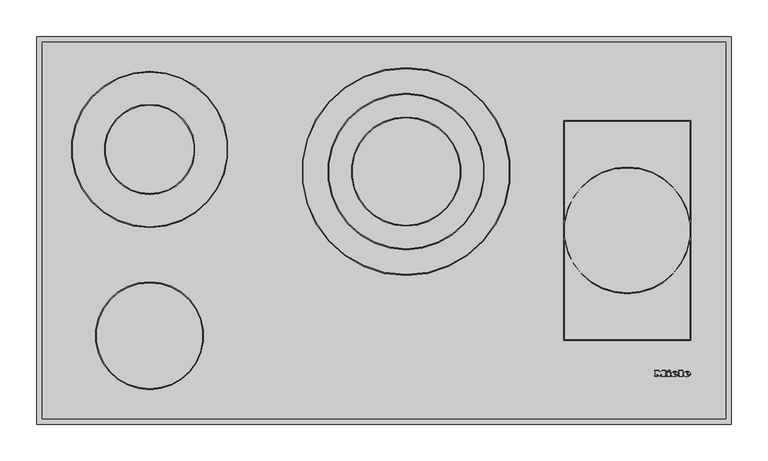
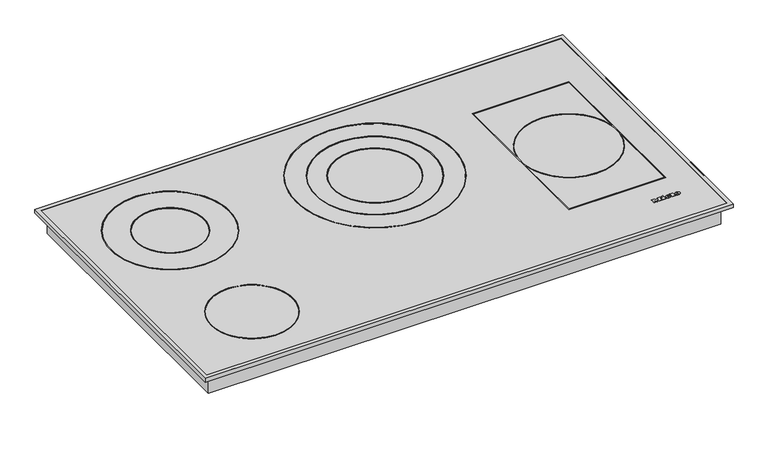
"""IFC4 building model written with IfcOpenShell, lengths in millimetres: proxy geometry, 12291800_UA_KM6565FR : 26656500_UA_12291800_KM6565FR."""

from ifc_helpers import new_model, si_unit, point, frame, frame_2d, origin, place, context, project, spatial, polyline, circle_curve, ellipse_curve, trimmed, segment, composite_curve, outline, extrude, faceted_brep, source, transform, mapped, element, save
from ifc_brep_helpers import plane_surface, cylinder_surface, revolved_surface, extruded_surface, advanced_brep


def specialty_equipment_58cac93b(model_context):
    return source(origin(), model_context, "Body", "SolidModel", [
        advanced_brep(
        [(410.56, 66.8948833, 6.4802537), (410.56, 67.7028828, 6.4811551), (415.912, 67.7028828, 6.4811551), (406.6, 67.7028828, 6.4811551), (408.8, 64.9988845, 6.4781386), (415.776, 66.8948833, 6.4802537), (413.36, 66.8948833, 6.4802537), (411.456, 65.9988838, 6.4792542), (410.56, 68.7268821, 6.4822974), (410.56, 69.5988816, 6.4832701), (411.928, 69.5988816, 6.4832701), (411.928, 68.7268821, 6.4822974), (410.56, 66.8959988, 5.4802543), (411.456, 65.9999994, 5.4792548), (413.36, 66.8959988, 5.4802543), (415.776, 66.8959988, 5.4802543), (408.8, 65.0, 5.4781393), (406.6, 67.7039983, 5.4811557), (415.912, 67.7039983, 5.4811557), (410.56, 67.7039983, 5.4811557), (410.56, 68.7279977, 5.482298), (411.928, 68.7279977, 5.482298), (411.928, 69.5999971, 5.4832707), (410.56, 69.5999971, 5.4832707)],
        [
            (0, 1),
            (1, 2),
            (2, 3, ellipse_curve(frame((411.256, 67.7028828, 6.4811551), z_axis=(0.0, -0.0011155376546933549, 0.9999993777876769), x_axis=(-1.0, 0.0, 0.0)), 4.656, 3.848)),
            (3, 4, circle_curve(frame((409.6960436, 67.9748826, 6.4814585), z_axis=(0.0, -0.0011155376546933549, 0.9999993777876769), x_axis=(0.0, -0.9999993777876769, -0.0011155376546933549)), 3.1079688)),
            (4, 5, circle_curve(frame((411.1627936, 70.0868813, 6.4838145), z_axis=(0.0, -0.0011155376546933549, 0.9999993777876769), x_axis=(0.0, -0.9999993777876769, -0.0011155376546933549)), 5.6098607)),
            (5, 6),
            (6, 7, circle_curve(frame((411.8470588, 67.6388828, 6.4810837), z_axis=(0.0, 0.0011155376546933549, -0.9999993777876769), x_axis=(0.0, -0.9999993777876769, -0.0011155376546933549)), 1.6859795)),
            (7, 0, circle_curve(frame((411.456, 66.8948833, 6.4802537), z_axis=(0.0, 0.0011155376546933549, -0.9999993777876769), x_axis=(0.0, -0.9999993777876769, -0.0011155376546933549)), 0.896)),
            (8, 9),
            (9, 10, circle_curve(frame((411.244, 69.5988816, 6.4832701), z_axis=(0.0, 0.0011155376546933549, -0.9999993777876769), x_axis=(0.0, -0.9999993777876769, -0.0011155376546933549)), 0.684)),
            (10, 11),
            (11, 8),
            (12, 13, circle_curve(frame((411.456, 66.8959988, 5.4802543), z_axis=(0.0, -0.0011155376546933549, 0.9999993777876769), x_axis=(0.0, -0.9999993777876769, -0.0011155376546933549)), 0.896)),
            (13, 14, circle_curve(frame((411.8470588, 67.6399984, 5.4810843), z_axis=(0.0, -0.0011155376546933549, 0.9999993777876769), x_axis=(0.0, -0.9999993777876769, -0.0011155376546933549)), 1.6859795)),
            (14, 15),
            (15, 16, circle_curve(frame((411.1627936, 70.0879968, 5.4838151), z_axis=(0.0, 0.0011155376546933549, -0.9999993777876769), x_axis=(0.0, -0.9999993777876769, -0.0011155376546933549)), 5.6098607)),
            (16, 17, circle_curve(frame((409.6960436, 67.9759981, 5.4814591), z_axis=(0.0, 0.0011155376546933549, -0.9999993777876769), x_axis=(0.0, -0.9999993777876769, -0.0011155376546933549)), 3.1079688)),
            (17, 18, ellipse_curve(frame((411.256, 67.7039983, 5.4811557), z_axis=(0.0, 0.0011155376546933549, -0.9999993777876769), x_axis=(-1.0, 0.0, 0.0)), 4.656, 3.848)),
            (18, 19),
            (19, 12),
            (20, 21),
            (21, 22),
            (22, 23, circle_curve(frame((411.244, 69.5999971, 5.4832707), z_axis=(0.0, -0.0011155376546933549, 0.9999993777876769), x_axis=(0.0, -0.9999993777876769, -0.0011155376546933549)), 0.684)),
            (23, 20),
            (0, 12),
            (19, 1),
            (18, 2),
            (5, 15),
            (14, 6),
            (17, 3),
            (13, 7),
            (16, 4),
            (8, 20),
            (23, 9),
            (22, 10),
            (21, 11),
        ],
        [
            plane_surface(frame((410.56, 67.7028828, 6.4811551), z_axis=(0.0, -0.0011155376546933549, 0.9999993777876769), x_axis=(0.0, 0.9999993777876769, 0.0011155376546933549))),
            plane_surface(frame((410.56, 67.7039983, 5.4811557), z_axis=(0.0, 0.0011155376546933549, -0.9999993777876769), x_axis=(0.0, -0.9999993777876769, -0.0011155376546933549))),
            plane_surface(frame((410.56, 66.8948833, 6.4802537), z_axis=(1.0000000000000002, 0.0, 0.0), x_axis=(0.0, 0.001115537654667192, -0.999999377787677))),
            plane_surface(frame((410.56, 67.7028828, 6.4811551), z_axis=(0.0, -0.999999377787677, -0.001115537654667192), x_axis=(0.0, 0.001115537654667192, -0.999999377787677))),
            plane_surface(frame((415.776, 66.8948833, 6.4802537), z_axis=(0.0, 0.999999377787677, 0.001115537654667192), x_axis=(0.0, 0.001115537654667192, -0.999999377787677))),
            extruded_surface(trimmed(ellipse_curve(frame((411.256, 67.7051139, 4.4811563), z_axis=(0.0, -0.0011155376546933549, 0.9999993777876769), x_axis=(-1.0, 0.0, 0.0)), 4.656, 3.848), [point((415.912, 67.7051139, 4.4811563))], [point((406.6, 67.7051139, 4.4811563))], True, "CARTESIAN"), (0.0, -0.0011156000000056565, 0.9999994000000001), 1.00000002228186),
            revolved_surface(polyline([(411.8470588, 65.95401994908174, 5.479203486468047), (411.8470588, 65.95290441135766, 6.4792029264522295)]), (411.8470588, 67.6399984, 5.4810843), (0.0, 0.0011155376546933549, -0.9999993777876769)),
            revolved_surface(polyline([(411.456, 65.99999935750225, 5.479254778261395), (411.456, 65.9988838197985, 6.479254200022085)]), (411.456, 66.8959988, 5.4802543), (0.0, 0.0011155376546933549, -0.9999993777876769)),
            cylinder_surface(frame((409.6960436, 67.9759981, 5.4814591), z_axis=(0.0, -0.0011155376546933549, 0.9999993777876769), x_axis=(0.0, -0.9999993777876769, -0.0011155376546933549)), 3.1079688),
            cylinder_surface(frame((411.1627936, 70.0879968, 5.4838151), z_axis=(0.0, -0.0011155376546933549, 0.9999993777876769), x_axis=(0.0, -0.9999993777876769, -0.0011155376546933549)), 5.6098607),
            plane_surface(frame((410.56, 68.7268821, 6.4822974), z_axis=(1.0000000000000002, 0.0, 0.0), x_axis=(0.0, 0.001115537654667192, -0.999999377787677))),
            revolved_surface(polyline([(411.244, 68.91599752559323, 5.48250767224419), (411.244, 68.9148819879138, 6.482507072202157)]), (411.244, 69.5999971, 5.4832707), (0.0, 0.0011155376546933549, -0.9999993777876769)),
            plane_surface(frame((411.928, 69.5988816, 6.4832701), z_axis=(-1.0000000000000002, 0.0, 0.0), x_axis=(0.0, 0.001115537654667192, -0.999999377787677))),
            plane_surface(frame((411.928, 68.7268821, 6.4822974), z_axis=(0.0, 0.999999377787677, 0.001115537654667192), x_axis=(0.0, 0.001115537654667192, -0.999999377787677))),
        ],
        [
            (0, [[1, 2, 3, 4, 5, 6, 7, 8], [9, 10, 11, 12]]),
            (1, [[13, 14, 15, 16, 17, 18, 19, 20], [21, 22, 23, 24]]),
            (2, [[-1, 25, -20, 26]]),
            (3, [[-2, -26, -19, 27]]),
            (4, [[-6, 28, -15, 29]]),
            (5, [[-3, -27, -18, 30]]),
            (6, [[-7, -29, -14, 31]]),
            (7, [[-8, -31, -13, -25]]),
            (8, [[-4, -30, -17, 32]]),
            (9, [[-5, -32, -16, -28]]),
            (10, [[-9, 33, -24, 34]]),
            (11, [[-10, -34, -23, 35]]),
            (12, [[-11, -35, -22, 36]]),
            (13, [[-12, -36, -21, -33]]),
        ],
    ),
        advanced_brep(
        [(393.864, 66.8948833, 6.4802537), (393.864, 67.7028828, 6.4811551), (399.216, 67.7028828, 6.4811551), (389.904, 67.7028828, 6.4811551), (392.104, 64.9988845, 6.4781386), (399.08, 66.8948833, 6.4802537), (396.664, 66.8948833, 6.4802537), (394.76, 65.9988838, 6.4792542), (393.864, 68.7268821, 6.4822974), (393.864, 69.5988816, 6.4832701), (395.232, 69.5988816, 6.4832701), (395.232, 68.7268821, 6.4822974), (393.864, 66.8959988, 5.4802543), (394.76, 65.9999994, 5.4792548), (396.664, 66.8959988, 5.4802543), (399.08, 66.8959988, 5.4802543), (392.104, 65.0, 5.4781393), (389.904, 67.7039983, 5.4811557), (399.216, 67.7039983, 5.4811557), (393.864, 67.7039983, 5.4811557), (393.864, 68.7279977, 5.482298), (395.232, 68.7279977, 5.482298), (395.232, 69.5999971, 5.4832707), (393.864, 69.5999971, 5.4832707)],
        [
            (0, 1),
            (1, 2),
            (2, 3, ellipse_curve(frame((394.56, 67.7028828, 6.4811551), z_axis=(0.0, -0.0011155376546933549, 0.9999993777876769), x_axis=(-1.0, 0.0, 0.0)), 4.656, 3.848)),
            (3, 4, circle_curve(frame((393.0000436, 67.9748826, 6.4814585), z_axis=(0.0, -0.0011155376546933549, 0.9999993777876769), x_axis=(0.0, -0.9999993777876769, -0.0011155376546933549)), 3.1079688)),
            (4, 5, circle_curve(frame((394.4667936, 70.0868813, 6.4838145), z_axis=(0.0, -0.0011155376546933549, 0.9999993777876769), x_axis=(0.0, -0.9999993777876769, -0.0011155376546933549)), 5.6098607)),
            (5, 6),
            (6, 7, circle_curve(frame((395.1510588, 67.6388828, 6.4810837), z_axis=(0.0, 0.0011155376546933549, -0.9999993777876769), x_axis=(0.0, -0.9999993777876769, -0.0011155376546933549)), 1.6859795)),
            (7, 0, circle_curve(frame((394.76, 66.8948833, 6.4802537), z_axis=(0.0, 0.0011155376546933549, -0.9999993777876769), x_axis=(0.0, -0.9999993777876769, -0.0011155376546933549)), 0.896)),
            (8, 9),
            (9, 10, circle_curve(frame((394.548, 69.5988816, 6.4832701), z_axis=(0.0, 0.0011155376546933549, -0.9999993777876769), x_axis=(0.0, -0.9999993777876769, -0.0011155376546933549)), 0.684)),
            (10, 11),
            (11, 8),
            (12, 13, circle_curve(frame((394.76, 66.8959988, 5.4802543), z_axis=(0.0, -0.0011155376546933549, 0.9999993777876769), x_axis=(0.0, -0.9999993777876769, -0.0011155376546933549)), 0.896)),
            (13, 14, circle_curve(frame((395.1510588, 67.6399984, 5.4810843), z_axis=(0.0, -0.0011155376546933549, 0.9999993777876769), x_axis=(0.0, -0.9999993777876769, -0.0011155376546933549)), 1.6859795)),
            (14, 15),
            (15, 16, circle_curve(frame((394.4667936, 70.0879968, 5.4838151), z_axis=(0.0, 0.0011155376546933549, -0.9999993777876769), x_axis=(0.0, -0.9999993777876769, -0.0011155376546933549)), 5.6098607)),
            (16, 17, circle_curve(frame((393.0000436, 67.9759981, 5.4814591), z_axis=(0.0, 0.0011155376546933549, -0.9999993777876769), x_axis=(0.0, -0.9999993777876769, -0.0011155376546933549)), 3.1079688)),
            (17, 18, ellipse_curve(frame((394.56, 67.7039983, 5.4811557), z_axis=(0.0, 0.0011155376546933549, -0.9999993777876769), x_axis=(-1.0, 0.0, 0.0)), 4.656, 3.848)),
            (18, 19),
            (19, 12),
            (20, 21),
            (21, 22),
            (22, 23, circle_curve(frame((394.548, 69.5999971, 5.4832707), z_axis=(0.0, -0.0011155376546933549, 0.9999993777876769), x_axis=(0.0, -0.9999993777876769, -0.0011155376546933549)), 0.684)),
            (23, 20),
            (0, 12),
            (19, 1),
            (18, 2),
            (5, 15),
            (14, 6),
            (17, 3),
            (13, 7),
            (16, 4),
            (8, 20),
            (23, 9),
            (22, 10),
            (21, 11),
        ],
        [
            plane_surface(frame((393.864, 67.7028828, 6.4811551), z_axis=(0.0, -0.0011155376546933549, 0.9999993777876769), x_axis=(0.0, 0.9999993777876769, 0.0011155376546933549))),
            plane_surface(frame((393.864, 67.7039983, 5.4811557), z_axis=(0.0, 0.0011155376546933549, -0.9999993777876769), x_axis=(0.0, -0.9999993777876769, -0.0011155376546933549))),
            plane_surface(frame((393.864, 66.8948833, 6.4802537), z_axis=(1.0000000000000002, 0.0, 0.0), x_axis=(0.0, 0.001115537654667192, -0.999999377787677))),
            plane_surface(frame((393.864, 67.7028828, 6.4811551), z_axis=(0.0, -0.999999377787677, -0.001115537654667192), x_axis=(0.0, 0.001115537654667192, -0.999999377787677))),
            plane_surface(frame((399.08, 66.8948833, 6.4802537), z_axis=(0.0, 0.999999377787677, 0.001115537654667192), x_axis=(0.0, 0.001115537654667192, -0.999999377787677))),
            extruded_surface(trimmed(ellipse_curve(frame((394.56, 67.7051139, 4.4811563), z_axis=(0.0, -0.0011155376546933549, 0.9999993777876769), x_axis=(-1.0, 0.0, 0.0)), 4.656, 3.848), [point((399.216, 67.7051139, 4.4811563))], [point((389.904, 67.7051139, 4.4811563))], True, "CARTESIAN"), (0.0, -0.0011156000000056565, 0.9999994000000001), 1.00000002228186),
            revolved_surface(polyline([(395.1510588, 65.95401994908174, 5.479203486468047), (395.1510588, 65.95290441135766, 6.4792029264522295)]), (395.1510588, 67.6399984, 5.4810843), (0.0, 0.0011155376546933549, -0.9999993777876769)),
            revolved_surface(polyline([(394.76, 65.99999935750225, 5.479254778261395), (394.76, 65.9988838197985, 6.479254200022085)]), (394.76, 66.8959988, 5.4802543), (0.0, 0.0011155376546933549, -0.9999993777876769)),
            cylinder_surface(frame((393.0000436, 67.9759981, 5.4814591), z_axis=(0.0, -0.0011155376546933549, 0.9999993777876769), x_axis=(0.0, -0.9999993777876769, -0.0011155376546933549)), 3.1079688),
            cylinder_surface(frame((394.4667936, 70.0879968, 5.4838151), z_axis=(0.0, -0.0011155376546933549, 0.9999993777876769), x_axis=(0.0, -0.9999993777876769, -0.0011155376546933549)), 5.6098607),
            plane_surface(frame((393.864, 68.7268821, 6.4822974), z_axis=(1.0000000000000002, 0.0, 0.0), x_axis=(0.0, 0.001115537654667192, -0.999999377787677))),
            revolved_surface(polyline([(394.548, 68.91599752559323, 5.48250767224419), (394.548, 68.9148819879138, 6.482507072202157)]), (394.548, 69.5999971, 5.4832707), (0.0, 0.0011155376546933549, -0.9999993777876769)),
            plane_surface(frame((395.232, 69.5988816, 6.4832701), z_axis=(-1.0000000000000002, 0.0, 0.0), x_axis=(0.0, 0.001115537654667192, -0.999999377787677))),
            plane_surface(frame((395.232, 68.7268821, 6.4822974), z_axis=(0.0, 0.999999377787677, 0.001115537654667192), x_axis=(0.0, 0.001115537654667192, -0.999999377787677))),
        ],
        [
            (0, [[1, 2, 3, 4, 5, 6, 7, 8], [9, 10, 11, 12]]),
            (1, [[13, 14, 15, 16, 17, 18, 19, 20], [21, 22, 23, 24]]),
            (2, [[-1, 25, -20, 26]]),
            (3, [[-2, -26, -19, 27]]),
            (4, [[-6, 28, -15, 29]]),
            (5, [[-3, -27, -18, 30]]),
            (6, [[-7, -29, -14, 31]]),
            (7, [[-8, -31, -13, -25]]),
            (8, [[-4, -30, -17, 32]]),
            (9, [[-5, -32, -16, -28]]),
            (10, [[-9, 33, -24, 34]]),
            (11, [[-10, -34, -23, 35]]),
            (12, [[-11, -35, -22, 36]]),
            (13, [[-12, -36, -21, -33]]),
        ],
    ),
        extrude(outline(polyline([(0.0, 0.0), (-0.0109086, -2.9993294), (-1.4390415, -2.9920868), (-1.4315307, 0.0), (0.0, 0.0)])), frame((385.12, 72.5279953, 5.486537), z_axis=(0.0, -0.0011155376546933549, 0.9999993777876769), x_axis=(-0.42472021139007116, 0.9053240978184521, 0.0010099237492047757)), (0.0, 0.0, 1.0), 1.0),
        extrude(outline(polyline([(-0.4933908, 2.4141097), (-2.7800844, -2.4601583), (-7.0459741, -0.4588767), (-7.4401145, -1.299018), (-8.6568709, -0.728194), (-5.9760369, 4.9862153), (-4.7592805, 4.4153913), (-5.1636142, 3.5535222), (-2.1941493, 2.1604399), (-1.7898157, 3.022309), (-0.4933908, 2.4141097)])), frame((385.12, 72.5279953, 5.486537), z_axis=(0.0, -0.0011155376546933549, 0.9999993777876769), x_axis=(-0.42472021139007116, 0.9053240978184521, 0.0010099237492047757)), (0.0, 0.0, 1.0), 1.0),
        extrude(outline(polyline([(0.0, 0.0), (0.0, -1.304), (-5.504, -1.304), (-5.504, 5.3519999), (-6.488, 5.3519999), (-6.488, 6.696), (0.0, 6.696), (0.0, 5.3519999), (-0.96, 5.3519999), (-0.96, 0.0), (0.0, 0.0)])), frame((399.664, 71.6959958, 5.4856089), z_axis=(0.0, -0.0011155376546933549, 0.9999993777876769), x_axis=(-1.0, 0.0, 0.0)), (0.0, 0.0, 1.0), 1.0),
        extrude(outline(polyline([(0.0, 0.0), (0.0, -1.304), (-5.576, -1.304), (-7.92, 1.696), (-10.256, -1.304), (-15.128, -1.304), (-15.128, 0.0), (-14.112, 0.0), (-14.112, 5.3519999), (-15.128, 5.3519999), (-15.128, 6.696), (-8.744, 6.696), (-8.744, 5.3519999), (-9.728, 5.3519999), (-9.728, 1.8807777), (-6.136, 6.696), (-2.56, 1.9488752), (-2.56, 5.3519999), (-3.52, 5.3519999), (-3.52, 6.696), (0.0, 6.696), (0.0, 5.3519999), (-0.968, 5.3519999), (-0.968, 0.0), (0.0, 0.0)])), frame((367.2, 71.6959958, 5.4856089), z_axis=(0.0, -0.0011155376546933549, 0.9999993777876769), x_axis=(-1.0, 0.0, 0.0)), (0.0, 0.0, 1.0), 1.0),
        extrude(outline(polyline([(456.8, 511.8), (456.8, 14.2), (-456.8, 14.2), (-456.8, 511.8), (456.8, 511.8)])), frame((0.0, 0.0, -3.5), z_axis=(0.0, 0.0, 1.0), x_axis=(1.0, 0.0, 0.0)), (0.0, 0.0, 1.0), 3.5),
        extrude(outline(polyline([(-118.3, 495.5), (-118.3, 399.5), (-173.3, 399.5), (-173.3, 495.5), (-118.3, 495.5)])), frame((0.0, 0.0, -40.2), z_axis=(0.0, 0.0, 1.0), x_axis=(1.0, 0.0, 0.0)), (0.0, 0.0, 1.0), 5.3),
        extrude(outline(polyline([(-190.6, 499.1), (-190.6, 482.8), (-198.9, 482.8), (-198.9, 499.1), (-190.6, 499.1)])), frame((0.0, 0.0, -42.5), z_axis=(0.0, 0.0, 1.0), x_axis=(1.0, 0.0, 0.0)), (0.0, 0.0, 1.0), 7.6),
        extrude(outline(polyline([(456.8, 511.8), (456.8, 14.2), (-456.8, 14.2), (-456.8, 511.8), (456.8, 511.8)])), frame((0.0, 0.0, -34.9), z_axis=(0.0, 0.0, 1.0), x_axis=(1.0, 0.0, 0.0)), (0.0, 0.0, 1.0), 31.4),
        extrude(outline(polyline([(468.0, 520.0), (468.0, 1.0), (-468.0, 1.0), (-468.0, 520.0), (468.0, 520.0)])), frame((0.0, 0.0, 3.4), z_axis=(0.0, 0.0, 1.0), x_axis=(1.0, 0.0, 0.0)), (0.0, 0.0, 1.0), 2.6),
        faceted_brep([(464.0, 519.0, 7.0), (464.0, 519.0, 6.0), (464.0, 7.0, 6.0), (464.0, 7.0, 7.0), (471.0, 526.0, 0.0), (471.0, 526.0, 7.0), (471.0, 0.0, 7.0), (471.0, 0.0, 0.0), (470.0, 525.0, 6.0), (470.0, 525.0, 0.0), (470.0, 1.0, 0.0), (470.0, 1.0, 6.0), (-464.0, 7.0, 6.0), (-464.0, 7.0, 7.0), (-471.0, 0.0, 7.0), (-471.0, 0.0, 0.0), (-470.0, 1.0, 0.0), (-470.0, 1.0, 6.0), (-464.0, 519.0, 6.0), (-464.0, 519.0, 7.0), (-471.0, 526.0, 7.0), (-471.0, 526.0, 0.0), (-470.0, 525.0, 0.0), (-470.0, 525.0, 6.0)], [[[0, 1, 2, 3]], [[4, 5, 6, 7]], [[8, 9, 10, 11]], [[3, 2, 12, 13]], [[7, 6, 14, 15]], [[11, 10, 16, 17]], [[13, 12, 18, 19]], [[15, 14, 20, 21]], [[17, 16, 22, 23]], [[19, 18, 1, 0]], [[5, 20, 14, 6], [3, 13, 19, 0]], [[21, 20, 5, 4]], [[7, 15, 21, 4], [9, 22, 16, 10]], [[23, 22, 9, 8]], [[11, 17, 23, 8], [1, 18, 12, 2]]]),
        extrude(outline(composite_curve([segment(trimmed(circle_curve(frame_2d((-143.4, 488.0)), 7.5), [point((-143.4, 495.5))], [point((-143.4, 480.5))], False, "CARTESIAN"), True, "CONTINUOUS"), segment(trimmed(circle_curve(frame_2d((-143.4, 488.0)), 7.5), [point((-143.4, 480.5))], [point((-143.4, 495.5))], False, "CARTESIAN"), True, "CONTINUOUS")], self_intersect=False)), frame((0.0, 0.0, -70.2), z_axis=(0.0, 0.0, 1.0), x_axis=(1.0, 0.0, 0.0)), (0.0, 0.0, 1.0), 30.0),
        extrude(outline(polyline([(-136.0227397, 483.0), (-143.4, 483.0), (-143.4, 484.2557039), (-137.2784436, 484.2557039), (-137.2784436, 487.5519266), (-142.929111, 487.5519266), (-142.929111, 488.8076304), (-137.2784436, 488.8076304), (-137.2784436, 491.7899271), (-143.243037, 491.7899271), (-143.243037, 493.045631), (-136.0227397, 493.045631), (-136.0227397, 483.0)])), frame((0.0, 0.0, -71.2), z_axis=(0.0, 0.0, 1.0), x_axis=(1.0, 0.0, 0.0)), (0.0, 0.0, 1.0), 1.0),
        extrude(outline(polyline([(-145.2835558, 483.0), (-151.5620752, 483.0), (-151.5620752, 484.2557039), (-146.5392597, 484.2557039), (-146.5392597, 493.045631), (-145.2835558, 493.045631), (-145.2835558, 483.0)])), frame((0.0, 0.0, -71.2), z_axis=(0.0, 0.0, 1.0), x_axis=(1.0, 0.0, 0.0)), (0.0, 0.0, 1.0), 1.0),
        extrude(outline(polyline([(416.2, 113.8), (243.8, 113.8), (243.8, 412.2), (416.2, 412.2), (416.2, 113.8)]), holes=[composite_curve([segment(trimmed(circle_curve(frame_2d((330.0, 263.0)), 86.2), [point((330.0, 349.2))], [point((415.0, 277.3331783))], False, "CARTESIAN"), True, "CONTINUOUS"), segment(polyline([(415.0, 277.3331783), (415.0, 411.0), (245.0, 411.0), (245.0, 277.3331783)]), True, "CONTINUOUS"), segment(trimmed(circle_curve(frame_2d((330.0, 263.0)), 86.2), [point((245.0, 277.3331783))], [point((330.0, 349.2))], False, "CARTESIAN"), True, "CONTINUOUS")], self_intersect=False), composite_curve([segment(trimmed(circle_curve(frame_2d((330.0, 263.0)), 86.2), [point((330.0, 176.8))], [point((245.0, 248.6668217))], False, "CARTESIAN"), True, "CONTINUOUS"), segment(polyline([(245.0, 248.6668217), (245.0, 115.0), (415.0, 115.0), (415.0, 248.6668217)]), True, "CONTINUOUS"), segment(trimmed(circle_curve(frame_2d((330.0, 263.0)), 86.2), [point((415.0, 248.6668217))], [point((330.0, 176.8))], False, "CARTESIAN"), True, "CONTINUOUS")], self_intersect=False), composite_curve([segment(trimmed(circle_curve(frame_2d((330.0, 263.0)), 85.0), [point((330.0, 348.0))], [point((330.0, 178.0))], True, "CARTESIAN"), True, "CONTINUOUS"), segment(trimmed(circle_curve(frame_2d((330.0, 263.0)), 85.0), [point((330.0, 178.0))], [point((330.0, 348.0))], True, "CARTESIAN"), True, "CONTINUOUS")], self_intersect=False)]), frame((0.0, 0.0, 6.0), z_axis=(0.0, 0.0, 1.0), x_axis=(1.0, 0.0, 0.0)), (0.0, 0.0, 1.0), 1.0),
        extrude(outline(composite_curve([segment(trimmed(circle_curve(frame_2d((-318.0, 120.0)), 73.2), [point((-318.0, 193.2))], [point((-318.0, 46.8))], False, "CARTESIAN"), True, "CONTINUOUS"), segment(trimmed(circle_curve(frame_2d((-318.0, 120.0)), 73.2), [point((-318.0, 46.8))], [point((-318.0, 193.2))], False, "CARTESIAN"), True, "CONTINUOUS")], self_intersect=False), holes=[composite_curve([segment(trimmed(circle_curve(frame_2d((-318.0, 120.0)), 72.0), [point((-318.0, 192.0))], [point((-318.0, 48.0))], True, "CARTESIAN"), True, "CONTINUOUS"), segment(trimmed(circle_curve(frame_2d((-318.0, 120.0)), 72.0), [point((-318.0, 48.0))], [point((-318.0, 192.0))], True, "CARTESIAN"), True, "CONTINUOUS")], self_intersect=False)]), frame((0.0, 0.0, 6.0), z_axis=(0.0, 0.0, 1.0), x_axis=(1.0, 0.0, 0.0)), (0.0, 0.0, 1.0), 1.0),
        extrude(outline(composite_curve([segment(trimmed(circle_curve(frame_2d((-318.0, 373.0)), 106.2), [point((-318.0, 479.2))], [point((-318.0, 266.8))], False, "CARTESIAN"), True, "CONTINUOUS"), segment(trimmed(circle_curve(frame_2d((-318.0, 373.0)), 106.2), [point((-318.0, 266.8))], [point((-318.0, 479.2))], False, "CARTESIAN"), True, "CONTINUOUS")], self_intersect=False), holes=[composite_curve([segment(trimmed(circle_curve(frame_2d((-318.0, 373.0)), 105.0), [point((-318.0, 478.0))], [point((-318.0, 268.0))], True, "CARTESIAN"), True, "CONTINUOUS"), segment(trimmed(circle_curve(frame_2d((-318.0, 373.0)), 105.0), [point((-318.0, 268.0))], [point((-318.0, 478.0))], True, "CARTESIAN"), True, "CONTINUOUS")], self_intersect=False)]), frame((0.0, 0.0, 6.0), z_axis=(0.0, 0.0, 1.0), x_axis=(1.0, 0.0, 0.0)), (0.0, 0.0, 1.0), 1.0),
        extrude(outline(composite_curve([segment(trimmed(circle_curve(frame_2d((-318.0, 373.0)), 61.2), [point((-318.0, 434.2))], [point((-318.0, 311.8))], False, "CARTESIAN"), True, "CONTINUOUS"), segment(trimmed(circle_curve(frame_2d((-318.0, 373.0)), 61.2), [point((-318.0, 311.8))], [point((-318.0, 434.2))], False, "CARTESIAN"), True, "CONTINUOUS")], self_intersect=False), holes=[composite_curve([segment(trimmed(circle_curve(frame_2d((-318.0, 373.0)), 60.0), [point((-318.0, 433.0))], [point((-318.0, 313.0))], True, "CARTESIAN"), True, "CONTINUOUS"), segment(trimmed(circle_curve(frame_2d((-318.0, 373.0)), 60.0), [point((-318.0, 313.0))], [point((-318.0, 433.0))], True, "CARTESIAN"), True, "CONTINUOUS")], self_intersect=False)]), frame((0.0, 0.0, 6.0), z_axis=(0.0, 0.0, 1.0), x_axis=(1.0, 0.0, 0.0)), (0.0, 0.0, 1.0), 1.0),
        extrude(outline(composite_curve([segment(trimmed(circle_curve(frame_2d((30.0, 343.0)), 141.2), [point((30.0, 484.2))], [point((30.0, 201.8))], False, "CARTESIAN"), True, "CONTINUOUS"), segment(trimmed(circle_curve(frame_2d((30.0, 343.0)), 141.2), [point((30.0, 201.8))], [point((30.0, 484.2))], False, "CARTESIAN"), True, "CONTINUOUS")], self_intersect=False), holes=[composite_curve([segment(trimmed(circle_curve(frame_2d((30.0, 343.0)), 140.0), [point((30.0, 483.0))], [point((30.0, 203.0))], True, "CARTESIAN"), True, "CONTINUOUS"), segment(trimmed(circle_curve(frame_2d((30.0, 343.0)), 140.0), [point((30.0, 203.0))], [point((30.0, 483.0))], True, "CARTESIAN"), True, "CONTINUOUS")], self_intersect=False)]), frame((0.0, 0.0, 6.0), z_axis=(0.0, 0.0, 1.0), x_axis=(1.0, 0.0, 0.0)), (0.0, 0.0, 1.0), 1.0),
        extrude(outline(composite_curve([segment(trimmed(circle_curve(frame_2d((30.0, 343.0)), 106.2), [point((30.0, 449.2))], [point((30.0, 236.8))], False, "CARTESIAN"), True, "CONTINUOUS"), segment(trimmed(circle_curve(frame_2d((30.0, 343.0)), 106.2), [point((30.0, 236.8))], [point((30.0, 449.2))], False, "CARTESIAN"), True, "CONTINUOUS")], self_intersect=False), holes=[composite_curve([segment(trimmed(circle_curve(frame_2d((30.0, 343.0)), 105.0), [point((30.0, 448.0))], [point((30.0, 238.0))], True, "CARTESIAN"), True, "CONTINUOUS"), segment(trimmed(circle_curve(frame_2d((30.0, 343.0)), 105.0), [point((30.0, 238.0))], [point((30.0, 448.0))], True, "CARTESIAN"), True, "CONTINUOUS")], self_intersect=False)]), frame((0.0, 0.0, 6.0), z_axis=(0.0, 0.0, 1.0), x_axis=(1.0, 0.0, 0.0)), (0.0, 0.0, 1.0), 1.0),
        extrude(outline(composite_curve([segment(trimmed(circle_curve(frame_2d((30.0, 343.0)), 74.2), [point((30.0, 417.2))], [point((30.0, 268.8))], False, "CARTESIAN"), True, "CONTINUOUS"), segment(trimmed(circle_curve(frame_2d((30.0, 343.0)), 74.2), [point((30.0, 268.8))], [point((30.0, 417.2))], False, "CARTESIAN"), True, "CONTINUOUS")], self_intersect=False), holes=[composite_curve([segment(trimmed(circle_curve(frame_2d((30.0, 343.0)), 73.0), [point((30.0, 416.0))], [point((30.0, 270.0))], True, "CARTESIAN"), True, "CONTINUOUS"), segment(trimmed(circle_curve(frame_2d((30.0, 343.0)), 73.0), [point((30.0, 270.0))], [point((30.0, 416.0))], True, "CARTESIAN"), True, "CONTINUOUS")], self_intersect=False)]), frame((0.0, 0.0, 6.0), z_axis=(0.0, 0.0, 1.0), x_axis=(1.0, 0.0, 0.0)), (0.0, 0.0, 1.0), 1.0),
    ])


if __name__ == "__main__":
    model = new_model("IFC4")
    model_context = context("Model", 3, world=origin())
    ifc_project = project(units=[si_unit("LENGTHUNIT", "METRE", prefix="MILLI")], contexts=[model_context])
    site = spatial("IfcSite", under=ifc_project)
    building = spatial("IfcBuilding", under=site)
    placement = place(None, origin())
    specialty_equipment_shape = specialty_equipment_58cac93b(model_context)
    element("IfcBuildingElementProxy", 1, Name="12291800_UA_KM6565FR : 26656500_UA_12291800_KM6565FR", ObjectType="12291800_UA_KM6565FR : 26656500_UA_12291800_KM6565FR", at=placement, inside=building, context=model_context, shape_type="MappedRepresentation", body=[
        mapped(specialty_equipment_shape, transform((0.0, 0.0, 0.0), x_axis=(1.0, 0.0, 0.0), y_axis=(0.0, 1.0, 0.0), z_axis=(0.0, 0.0, 1.0))),
    ])
    save(model, "model.ifc")
